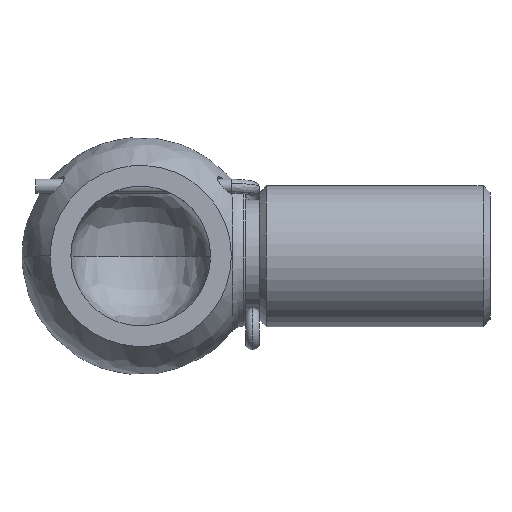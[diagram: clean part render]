
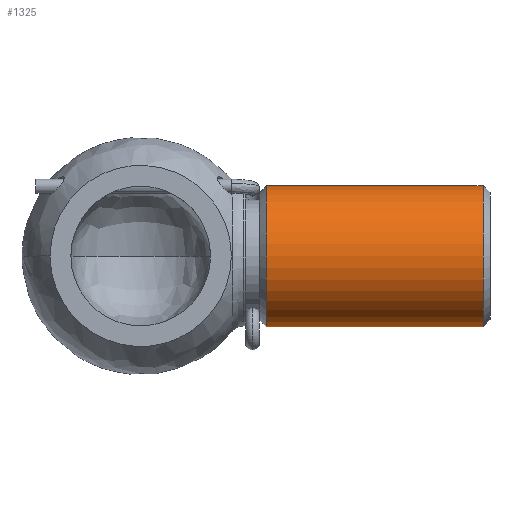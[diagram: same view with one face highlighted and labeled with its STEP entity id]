
A CAD part, top view. The second image highlights one B-rep face of the part: STEP entity #1325.
In plain terms, the highlighted cylindrical face has radius 5.05 mm (diameter 10.1 mm), a partial arc.
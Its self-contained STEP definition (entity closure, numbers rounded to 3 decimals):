
#16 = EDGE_CURVE ( 'NONE', #1021, #897, #1436, .T. ) ;
#81 = CARTESIAN_POINT ( 'NONE',  ( 9., -4.61, 0.051 ) ) ;
#84 = CYLINDRICAL_SURFACE ( 'NONE', #1382, 5.05 ) ;
#124 = DIRECTION ( 'NONE',  ( -1., 0., 0. ) ) ;
#149 = AXIS2_PLACEMENT_3D ( 'NONE', #787, #945, #595 ) ;
#190 = ORIENTED_EDGE ( 'NONE', *, *, #1291, .T. ) ;
#202 = VECTOR ( 'NONE', #124, 1000. ) ;
#235 = VERTEX_POINT ( 'NONE', #1420 ) ;
#402 = DIRECTION ( 'NONE',  ( 0., 1., 0. ) ) ;
#453 = ORIENTED_EDGE ( 'NONE', *, *, #16, .T. ) ;
#595 = DIRECTION ( 'NONE',  ( 0., -1., 0. ) ) ;
#603 = CIRCLE ( 'NONE', #1091, 5.05 ) ;
#606 = LINE ( 'NONE', #1046, #202 ) ;
#674 = EDGE_CURVE ( 'NONE', #1513, #1021, #1132, .T. ) ;
#718 = CARTESIAN_POINT ( 'NONE',  ( 25., 0.44, 0.051 ) ) ;
#787 = CARTESIAN_POINT ( 'NONE',  ( 9., 0.44, 0.051 ) ) ;
#869 = ORIENTED_EDGE ( 'NONE', *, *, #995, .F. ) ;
#897 = VERTEX_POINT ( 'NONE', #81 ) ;
#945 = DIRECTION ( 'NONE',  ( 1., 0., 0. ) ) ;
#995 = EDGE_CURVE ( 'NONE', #235, #897, #606, .T. ) ;
#1021 = VERTEX_POINT ( 'NONE', #1378 ) ;
#1046 = CARTESIAN_POINT ( 'NONE',  ( 25., -4.61, 0.051 ) ) ;
#1091 = AXIS2_PLACEMENT_3D ( 'NONE', #1516, #1362, #1373 ) ;
#1132 = LINE ( 'NONE', #1860, #1213 ) ;
#1213 = VECTOR ( 'NONE', #1867, 1000. ) ;
#1218 = ORIENTED_EDGE ( 'NONE', *, *, #674, .T. ) ;
#1291 = EDGE_CURVE ( 'NONE', #235, #1513, #603, .T. ) ;
#1316 = FACE_OUTER_BOUND ( 'NONE', #1544, .T. ) ;
#1325 = ADVANCED_FACE ( 'NONE', ( #1316 ), #84, .T. ) ;
#1362 = DIRECTION ( 'NONE',  ( -1., 0., 0. ) ) ;
#1373 = DIRECTION ( 'NONE',  ( 0., -1., 0. ) ) ;
#1378 = CARTESIAN_POINT ( 'NONE',  ( 9., 5.49, 0.051 ) ) ;
#1382 = AXIS2_PLACEMENT_3D ( 'NONE', #718, #1819, #402 ) ;
#1420 = CARTESIAN_POINT ( 'NONE',  ( 24.5, -4.61, 0.051 ) ) ;
#1436 = CIRCLE ( 'NONE', #149, 5.05 ) ;
#1513 = VERTEX_POINT ( 'NONE', #1583 ) ;
#1516 = CARTESIAN_POINT ( 'NONE',  ( 24.5, 0.44, 0.051 ) ) ;
#1544 = EDGE_LOOP ( 'NONE', ( #869, #190, #1218, #453 ) ) ;
#1583 = CARTESIAN_POINT ( 'NONE',  ( 24.5, 5.49, 0.051 ) ) ;
#1819 = DIRECTION ( 'NONE',  ( -1., 0., 0. ) ) ;
#1860 = CARTESIAN_POINT ( 'NONE',  ( 25., 5.49, 0.051 ) ) ;
#1867 = DIRECTION ( 'NONE',  ( -1., 0., 0. ) ) ;
